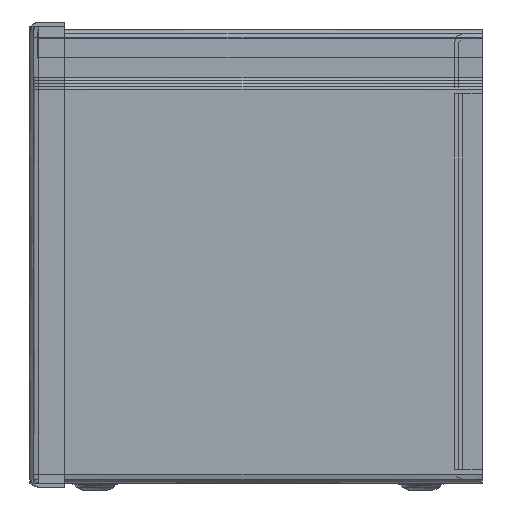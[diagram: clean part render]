
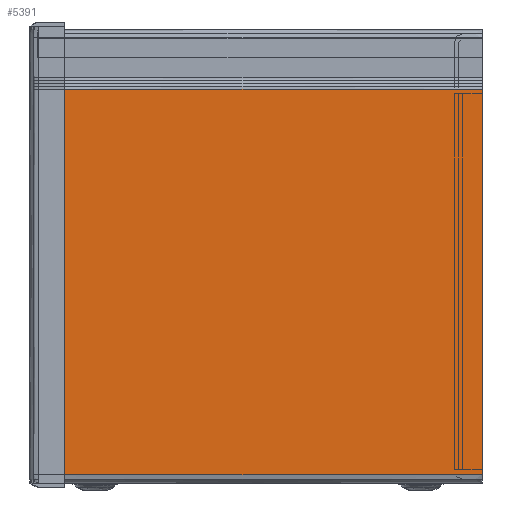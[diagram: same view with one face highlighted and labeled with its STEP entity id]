
A CAD part, left-side view. The second image highlights one B-rep face of the part: STEP entity #5391.
In plain terms, the highlighted free-form (B-spline) face has degree [1, 1] with [2, 2] control points.
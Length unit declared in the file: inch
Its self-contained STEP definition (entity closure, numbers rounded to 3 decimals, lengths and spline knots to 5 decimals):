
#5319=CARTESIAN_POINT('V66',(-0.072,0.08,
   0.));
#5320=VERTEX_POINT('V66',#5319);
#5334=CARTESIAN_POINT('V67',(-0.072,0.08,
   -8.0));
#5335=VERTEX_POINT('V67',#5334);
#5336=CARTESIAN_POINT('E90',(-0.072,0.08,
   0.));
#5337=CARTESIAN_POINT('E90',(-0.072,0.08,
   -8.0));
#5338=QUASI_UNIFORM_CURVE('E90',1,(#5336,#5337),.POLYLINE_FORM.,.F.,
   .U.);
#5339=EDGE_CURVE('E90',#5320,#5335,#5338,.T.);
#5364=CARTESIAN_POINT('F41',(-0.072,6.95386,
   0.));
#5365=CARTESIAN_POINT('F41',(-0.072,6.95386,
   -8.0));
#5366=CARTESIAN_POINT('F41',(-0.072,0.08,
   0.));
#5367=CARTESIAN_POINT('F41',(-0.072,0.08,
   -8.0));
#5368=B_SPLINE_SURFACE_WITH_KNOTS('F41',1,1,((#5364,#5366),(#5365,
   #5367)),.PLANE_SURF.,.F.,.F.,.U.,(2,2),(2,2),(
   0.00017,1.1636),(0.00017,
   0.99983),.UNSPECIFIED.);
#5369=CARTESIAN_POINT('V64',(-0.072,6.95386,
   -8.0));
#5370=VERTEX_POINT('V64',#5369);
#5371=CARTESIAN_POINT('E107',(-0.072,6.95386,
   -8.0));
#5372=CARTESIAN_POINT('E107',(-0.072,0.08,
   -8.0));
#5373=QUASI_UNIFORM_CURVE('E107',1,(#5371,#5372),.POLYLINE_FORM.,.F.,
   .U.);
#5374=EDGE_CURVE('E107',#5370,#5335,#5373,.T.);
#5375=ORIENTED_EDGE('E107',*,*,#5374,.T.);
#5376=ORIENTED_EDGE('E90',*,*,#5339,.F.);
#5377=CARTESIAN_POINT('V61',(-0.072,6.95386,
   0.));
#5378=VERTEX_POINT('V61',#5377);
#5379=CARTESIAN_POINT('E108',(-0.072,0.08,
   0.0));
#5380=CARTESIAN_POINT('E108',(-0.072,6.95386,
   0.0));
#5381=QUASI_UNIFORM_CURVE('E108',1,(#5379,#5380),.POLYLINE_FORM.,.F.,
   .U.);
#5382=EDGE_CURVE('E108',#5320,#5378,#5381,.T.);
#5383=ORIENTED_EDGE('E108',*,*,#5382,.T.);
#5384=CARTESIAN_POINT('E88',(-0.072,6.95386,
   -8.0));
#5385=CARTESIAN_POINT('E88',(-0.072,6.95386,
   0.));
#5386=QUASI_UNIFORM_CURVE('E88',1,(#5384,#5385),.POLYLINE_FORM.,.F.,
   .U.);
#5387=EDGE_CURVE('E88',#5370,#5378,#5386,.T.);
#5388=ORIENTED_EDGE('E88',*,*,#5387,.F.);
#5389=EDGE_LOOP('F41',(#5375,#5376,#5383,#5388));
#5390=FACE_OUTER_BOUND('F41',#5389,.T.);
#5391=ADVANCED_FACE('F41',(#5390),#5368,.T.);
